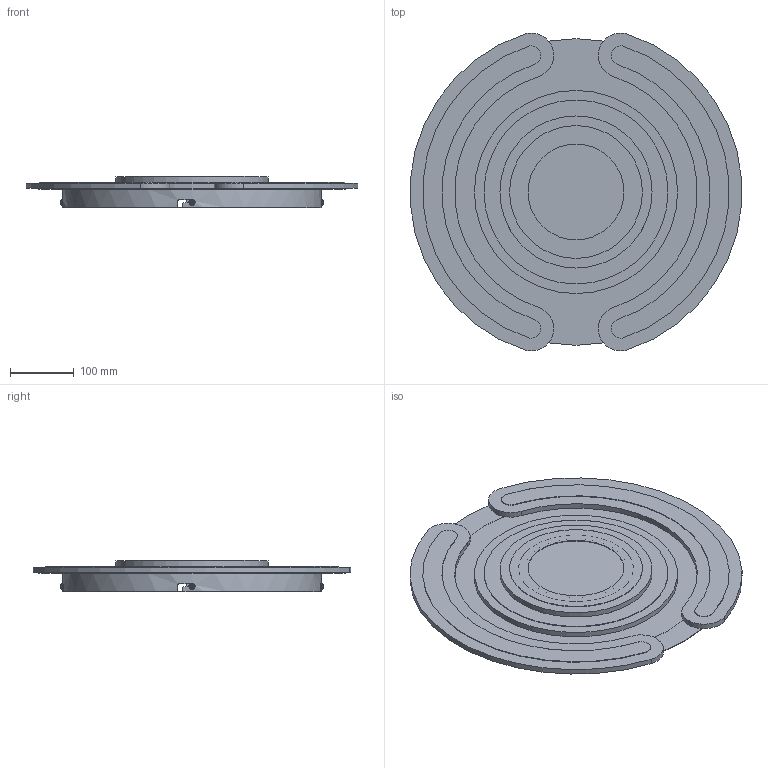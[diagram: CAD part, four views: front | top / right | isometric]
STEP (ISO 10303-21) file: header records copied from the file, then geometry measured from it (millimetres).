
FILE_DESCRIPTION(/* description */ (''),/* implementation_level */ '2;1');
FILE_NAME(/* name */ 'DC-LM-0103(VT-7960).stp',/* time_stamp */ '2026-06-11T11:53:30+08:00',/* author */ (''),/* organization */ (''),/* preprocessor_version */ 'ST-DEVELOPER v16',/* originating_system */ 'SIEMENS PLM Software NX 10.0',/* authorisation */ '');
FILE_SCHEMA (('AP203_CONFIGURATION_CONTROLLED_3D_DESIGN_OF_MECHANICAL_PARTS_AND_ASSEMBLIES_MIM_LF { 1 0 10303 403 2 1 2}'));
Length unit declared in the file: millimetre
Products named in the file (1): 10E103D9Dfz4n
Bounding box: 518.18 x 497.63 x 50 mm (x, y, z)
Volume: 1561325.2 mm3; surface area: 1010181.3 mm2
Topology: 15 solids, 15 shells, 289 faces, 734 edges, 484 vertices
Faces by surface type: plane 147, cylinder 106, bspline 16, cone 16, torus 4
Full cylindrical faces by diameter (mm): 3.5 x4, 7 x4, 9.6 x4, 150 x1, 160 x1, 180 x1, 208 x1, 238 x3, 288 x1, 318 x1, 403 x1, 405 x1, 480 x1
Entity records: 24546 total; most frequent: CARTESIAN_POINT 17788, ORIENTED_EDGE 1388, DIRECTION 1288, EDGE_CURVE 694, AXIS2_PLACEMENT_3D 486, VERTEX_POINT 474, EDGE_LOOP 364, LINE 316
